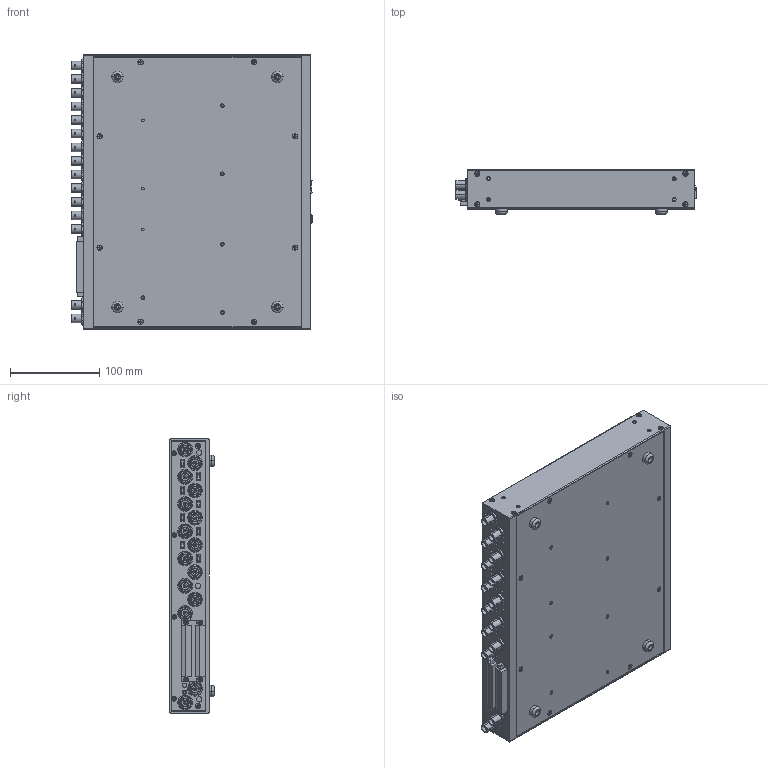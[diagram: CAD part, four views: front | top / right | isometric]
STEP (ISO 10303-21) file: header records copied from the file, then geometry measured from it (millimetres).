
FILE_DESCRIPTION((''),'2;1');
FILE_NAME('CU_USB_DAQPADE_BNC','2007-08-27T',('jpearson'),(''),'PRO/ENGINEER BY PARAMETRIC TECHNOLOGY CORPORATION, 2006080','PRO/ENGINEER BY PARAMETRIC TECHNOLOGY CORPORATION, 2006080','');
FILE_SCHEMA(('CONFIG_CONTROL_DESIGN'));
Products named in the file (1): CU_USB_DAQPADE_BNC
Bounding box: 269.23 x 49.78 x 306.32 mm (x, y, z)
Volume: 636884.8 mm3; surface area: 591895.3 mm2
Topology: 35 solids, 36 shells, 4241 faces, 10980 edges, 6518 vertices
Faces by surface type: plane 2192, cylinder 1075, bspline 628, cone 262, torus 46, sphere 38
Entity records: 152108 total; most frequent: CARTESIAN_POINT 52372, ORIENTED_EDGE 20736, DIRECTION 19591, EDGE_CURVE 10368, VERTEX_POINT 7221, AXIS2_PLACEMENT_3D 6603, VECTOR 6385, LINE 6385
